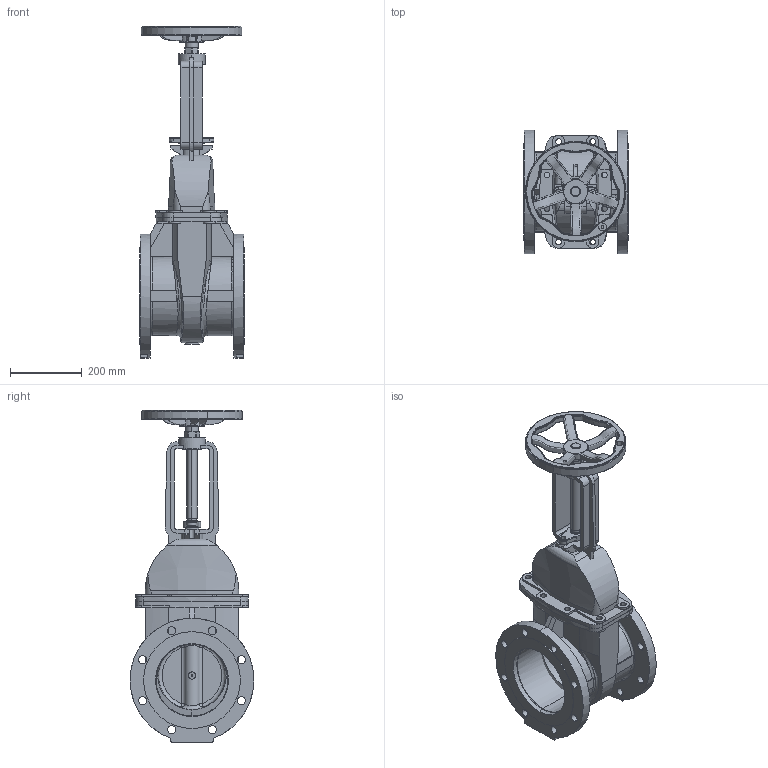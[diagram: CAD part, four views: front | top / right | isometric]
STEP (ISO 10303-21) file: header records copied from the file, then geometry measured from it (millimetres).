
FILE_DESCRIPTION(('Open CASCADE Model'),'2;1');
FILE_NAME('Open CASCADE Shape Model','2022-03-10T09:23:09',('Author'),( 'Open CASCADE'),'Open CASCADE STEP processor 7.3','Open CASCADE 7.3' ,'Unknown');
FILE_SCHEMA(('AUTOMOTIVE_DESIGN { 1 0 10303 214 1 1 1 1 }'));
Length unit declared in the file: millimetre
Products named in the file (8): Open CASCADE STEP translator 7.3 1; Open CASCADE STEP translator 7.3 1.1; Open CASCADE STEP translator 7.3 1.2; Open CASCADE STEP translator 7.3 1.3; Open CASCADE STEP translator 7.3 1.4; Open CASCADE STEP translator 7.3 1.5; Open CASCADE STEP translator 7.3 1.6; Open CASCADE STEP translator 7.3 1.7
Assembly tree (7 placements, depth 2):
  Open CASCADE STEP translator 7.3 1
    Open CASCADE STEP translator 7.3 1.1
    Open CASCADE STEP translator 7.3 1.2
    Open CASCADE STEP translator 7.3 1.3
    Open CASCADE STEP translator 7.3 1.4
    Open CASCADE STEP translator 7.3 1.5
    Open CASCADE STEP translator 7.3 1.6
    Open CASCADE STEP translator 7.3 1.7
Bounding box: 292 x 345 x 925.5 mm (x, y, z)
Volume: 10688335.7 mm3; surface area: 1822943.2 mm2
Topology: 7 solids, 7 shells, 794 faces, 2239 edges, 1453 vertices
Faces by surface type: cylinder 284, plane 277, bspline 111, cone 54, torus 42, sphere 18, revolution 8
Entity records: 226802 total; most frequent: CARTESIAN_POINT 185904, DIRECTION 6623, ORIENTED_EDGE 4454, PCURVE 4454, DEFINITIONAL_REPRESENTATION 4454, LINE 3434, VECTOR 3434, EDGE_CURVE 2227
